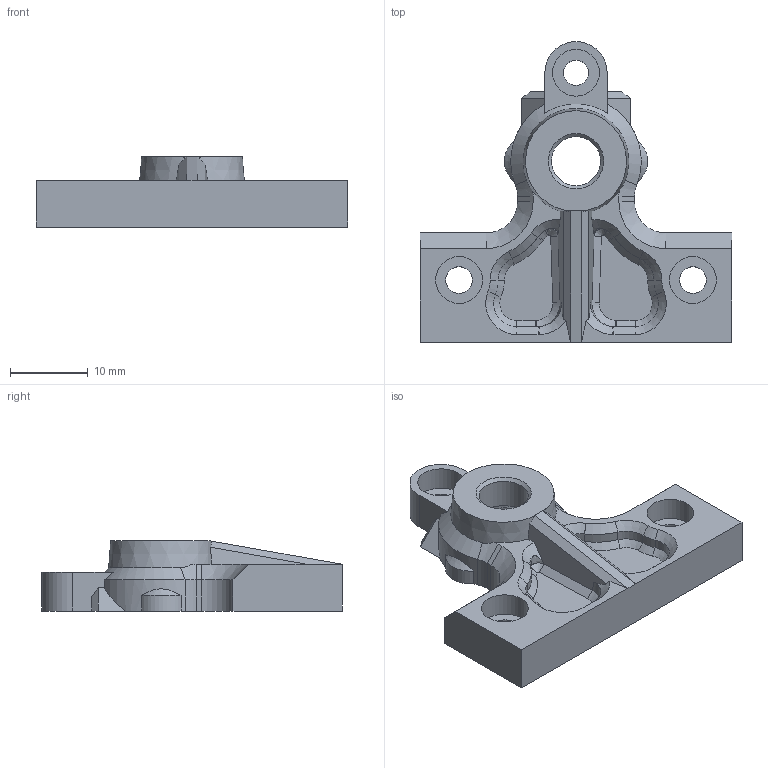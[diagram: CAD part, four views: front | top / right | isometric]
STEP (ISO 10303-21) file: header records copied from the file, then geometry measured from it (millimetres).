
FILE_DESCRIPTION(/* description */ (''),/* implementation_level */ '2;1');
FILE_NAME(/* name */ 'HMG7-Slice-Copperhead-Bowden-Colette-Cap.step',/* time_stamp */ '2022-11-01T21:40:42-07:00',/* author */ (''),/* organization */ (''),/* preprocessor_version */ 'ST-DEVELOPER v19.2',/* originating_system */ 'Autodesk Translation Framework v11.17.0.187',/* authorisation */ '');
FILE_SCHEMA (('AUTOMOTIVE_DESIGN { 1 0 10303 214 3 1 1 }'));
Length unit declared in the file: millimetre
Products named in the file (5): GEN_7_1.5; Copperhead; Copperhead_Interface_Plate; Copperhead_Bowden_Plate; Copperhead_Bowden_Clip
Assembly tree (4 placements, depth 5):
  GEN_7_1.5
    Copperhead
      Copperhead_Interface_Plate
        Copperhead_Bowden_Plate
          Copperhead_Bowden_Clip
Bounding box: 40 x 38.58 x 9 mm (x, y, z)
Volume: 4366.1 mm3; surface area: 3183.2 mm2
Topology: 1 solids, 1 shells, 123 faces, 316 edges, 198 vertices
Faces by surface type: plane 42, bspline 28, cylinder 27, cone 26
Full cylindrical faces by diameter (mm): 3.2 x1, 3.4 x2, 6 x3, 6.3 x1, 8.4 x1
Entity records: 4549 total; most frequent: CARTESIAN_POINT 1582, ORIENTED_EDGE 632, DIRECTION 539, EDGE_CURVE 316, VERTEX_POINT 198, AXIS2_PLACEMENT_3D 191, LINE 157, VECTOR 157
